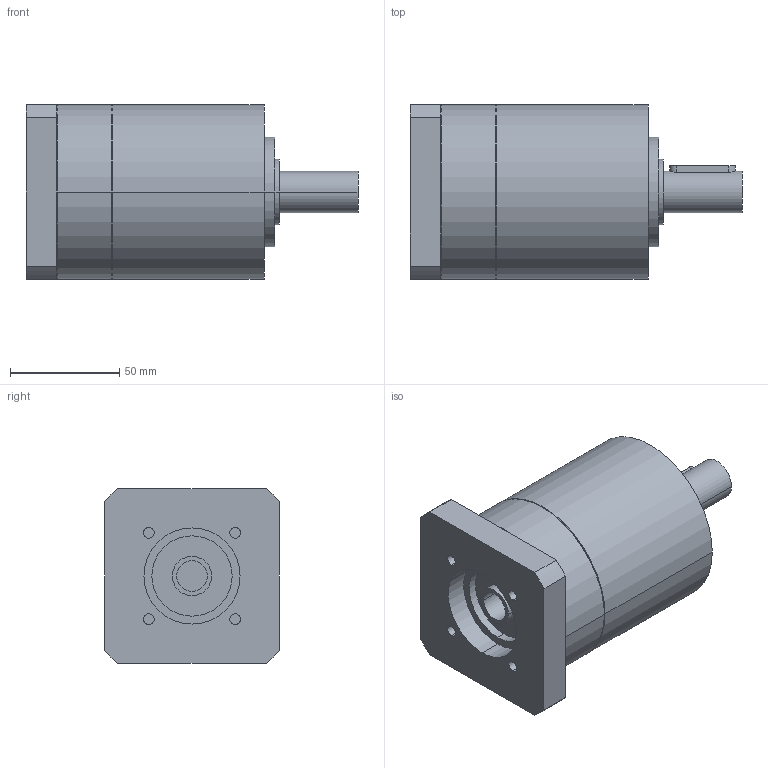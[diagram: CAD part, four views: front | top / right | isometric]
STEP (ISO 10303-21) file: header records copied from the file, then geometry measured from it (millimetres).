
FILE_DESCRIPTION(('CoCreate Modeling STEP Export'),'2;1');
FILE_NAME('GPR100_ig-3-4-5-6_19_B14_14_P31.stp','2014-08-26T10:07:27',(''),(''),'CoCreate Modeling STEP processor for AP214 (Solid Model)','CoCreate Modeling 16.00C 25-Feb-2009 (C) Parametric Technology GmbH','');
FILE_SCHEMA(('AUTOMOTIVE_DESIGN { 1 0 10303 214 1 1 1 1 }'));
Length unit declared in the file: millimetre
Products named in the file (2): GPR100_ig-3-4-5-6_19_B14_14_P31
Assembly tree (1 placements, depth 2):
  GPR100_ig-3-4-5-6_19_B14_14_P31
    GPR100_ig-3-4-5-6_19_B14_14_P31
Bounding box: 152 x 80 x 80 mm (x, y, z)
Volume: 562493.9 mm3; surface area: 50213.6 mm2
Topology: 1 solids, 1 shells, 74 faces, 187 edges, 131 vertices
Faces by surface type: cylinder 42, plane 26, cone 6
Entity records: 1943 total; most frequent: ORIENTED_EDGE 370, CARTESIAN_POINT 360, DIRECTION 264, EDGE_CURVE 185, VERTEX_POINT 131, AXIS2_PLACEMENT_3D 99, EDGE_LOOP 92, FACE_OUTER_BOUND 74
